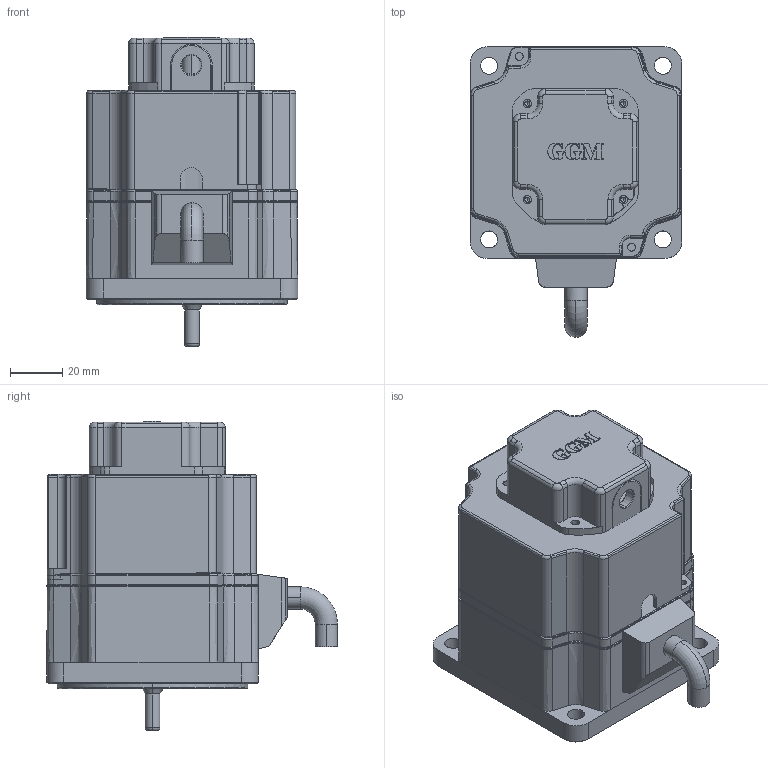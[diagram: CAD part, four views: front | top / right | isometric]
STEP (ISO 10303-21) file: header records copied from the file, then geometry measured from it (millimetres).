
FILE_DESCRIPTION (( 'STEP AP214' ), '1' );
FILE_NAME ('X Series 50w_brake_encoder_H.STEP', '2023-08-16T06:26:31', ( '' ), ( '' ), 'SwSTEP 2.0', 'SolidWorks 2022', '' );
FILE_SCHEMA (( 'AUTOMOTIVE_DESIGN' ));
Length unit declared in the file: millimetre
Products named in the file (8): LEAD BUSH.stp; ENCODER COVER; B Series 60w_brake_H.stp.STEP; X Series 50w_brake_H.STEP; ENCODER COVER ASS''Y; K8BH60N__.stp.STEP; X Series 50w_brake_encoder_H; BRAKE COVER ____.stp.STEP
Assembly tree (7 placements, depth 4):
  X Series 50w_brake_encoder_H
    X Series 50w_brake_H.STEP
      B Series 60w_brake_H.stp.STEP
        K8BH60N__.stp.STEP
        BRAKE COVER ____.stp.STEP
    ENCODER COVER ASS''Y
      LEAD BUSH.stp
      ENCODER COVER
Bounding box: 81.1 x 111.3 x 118.3 mm (x, y, z)
Volume: 322466.8 mm3; surface area: 86506.5 mm2
Topology: 13 solids, 13 shells, 1044 faces, 2696 edges, 1693 vertices
Faces by surface type: cylinder 440, plane 384, bspline 86, torus 76, cone 42, sphere 16
Entity records: 36258 total; most frequent: CARTESIAN_POINT 10656, ORIENTED_EDGE 5364, DIRECTION 4675, EDGE_CURVE 2682, AXIS2_PLACEMENT_3D 1735, VERTEX_POINT 1693, LINE 1205, VECTOR 1205
